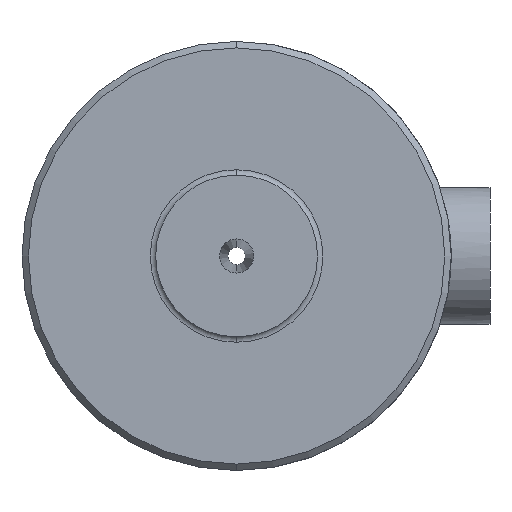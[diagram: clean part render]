
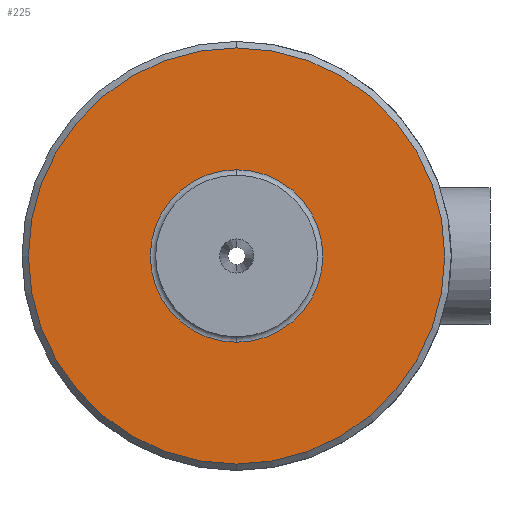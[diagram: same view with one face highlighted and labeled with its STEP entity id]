
A CAD part, front view. The second image highlights one B-rep face of the part: STEP entity #225.
In plain terms, the highlighted planar face has unit normal (0, -1, 0).
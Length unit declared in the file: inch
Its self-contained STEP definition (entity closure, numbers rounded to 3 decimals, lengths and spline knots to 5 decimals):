
#71 = EDGE_CURVE ( 'NONE', #74, #72, #540, .T. ) ;
#72 = VERTEX_POINT ( 'NONE', #535 ) ;
#74 = VERTEX_POINT ( 'NONE', #534 ) ;
#78 = VERTEX_POINT ( 'NONE', #527 ) ;
#206 = ORIENTED_EDGE ( 'NONE', *, *, #333, .F. ) ;
#207 = ORIENTED_EDGE ( 'NONE', *, *, #208, .F. ) ;
#208 = EDGE_CURVE ( 'NONE', #78, #358, #786, .T. ) ;
#222 = EDGE_CURVE ( 'NONE', #72, #74, #828, .T. ) ;
#225 = ADVANCED_FACE ( 'NONE', ( #820, #819 ), #818, .T. ) ;
#226 = EDGE_LOOP ( 'NONE', ( #227, #228 ) ) ;
#227 = ORIENTED_EDGE ( 'NONE', *, *, #222, .T. ) ;
#228 = ORIENTED_EDGE ( 'NONE', *, *, #71, .T. ) ;
#278 = EDGE_LOOP ( 'NONE', ( #206, #207 ) ) ;
#333 = EDGE_CURVE ( 'NONE', #358, #78, #989, .T. ) ;
#358 = VERTEX_POINT ( 'NONE', #1035 ) ;
#527 = CARTESIAN_POINT ( 'NONE',  ( 0., -1., -0.965 ) ) ;
#534 = CARTESIAN_POINT ( 'NONE',  ( 0., -1., -0.4 ) ) ;
#535 = CARTESIAN_POINT ( 'NONE',  ( 0., -1., 0.4 ) ) ;
#536 = DIRECTION ( 'NONE',  ( 0., 0., 1. ) ) ;
#537 = DIRECTION ( 'NONE',  ( 0., 1., 0. ) ) ;
#538 = CARTESIAN_POINT ( 'NONE',  ( 0., -1., 0. ) ) ;
#539 = AXIS2_PLACEMENT_3D ( 'NONE', #538, #537, #536 ) ;
#540 = CIRCLE ( 'NONE', #539, 0.4 ) ;
#782 = DIRECTION ( 'NONE',  ( 0., 0., 1. ) ) ;
#783 = DIRECTION ( 'NONE',  ( 0., 1., 0. ) ) ;
#784 = CARTESIAN_POINT ( 'NONE',  ( 0., -1., 0. ) ) ;
#785 = AXIS2_PLACEMENT_3D ( 'NONE', #784, #783, #782 ) ;
#786 = CIRCLE ( 'NONE', #785, 0.965 ) ;
#813 = DIRECTION ( 'NONE',  ( 0., 0., -1. ) ) ;
#814 = DIRECTION ( 'NONE',  ( 0., -1., 0. ) ) ;
#815 = CARTESIAN_POINT ( 'NONE',  ( 0.965, -1., 0. ) ) ;
#817 = AXIS2_PLACEMENT_3D ( 'NONE', #815, #814, #813 ) ;
#818 = PLANE ( 'NONE',  #817 ) ;
#819 = FACE_OUTER_BOUND ( 'NONE', #278, .T. ) ;
#820 = FACE_BOUND ( 'NONE', #226, .T. ) ;
#821 = DIRECTION ( 'NONE',  ( 0., 0., 1. ) ) ;
#822 = DIRECTION ( 'NONE',  ( 0., 1., 0. ) ) ;
#823 = CARTESIAN_POINT ( 'NONE',  ( 0., -1., 0. ) ) ;
#824 = AXIS2_PLACEMENT_3D ( 'NONE', #823, #822, #821 ) ;
#828 = CIRCLE ( 'NONE', #824, 0.4 ) ;
#971 = DIRECTION ( 'NONE',  ( 0., 0., 1. ) ) ;
#972 = DIRECTION ( 'NONE',  ( 0., 1., 0. ) ) ;
#973 = CARTESIAN_POINT ( 'NONE',  ( 0., -1., 0. ) ) ;
#988 = AXIS2_PLACEMENT_3D ( 'NONE', #973, #972, #971 ) ;
#989 = CIRCLE ( 'NONE', #988, 0.965 ) ;
#1035 = CARTESIAN_POINT ( 'NONE',  ( 0., -1., 0.965 ) ) ;
